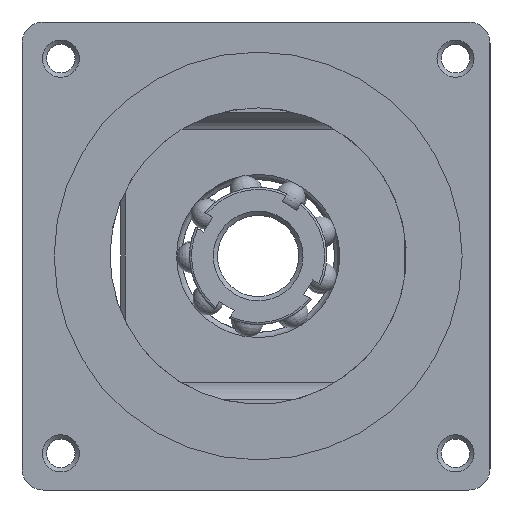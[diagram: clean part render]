
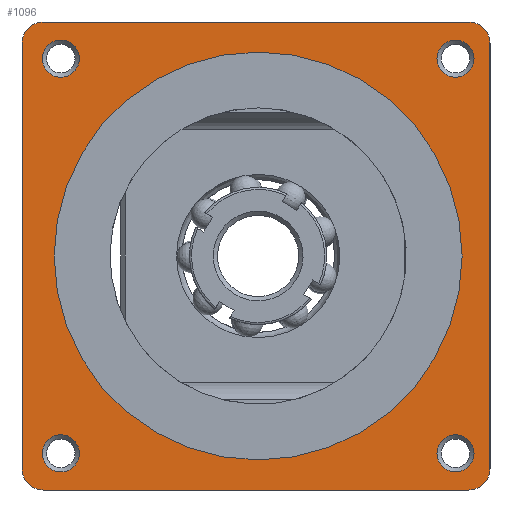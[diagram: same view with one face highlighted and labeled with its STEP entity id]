
A CAD part, left-side view. The second image highlights one B-rep face of the part: STEP entity #1096.
In plain terms, the highlighted planar face has unit normal (-1, 0, 0).
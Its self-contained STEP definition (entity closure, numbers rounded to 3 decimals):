
#1096=ADVANCED_FACE('',(#3850,#3852,#3854,#3856,#3858,#3860),#3862,.T.);
#3850=FACE_BOUND('',#3851,.T.);
#3851=EDGE_LOOP('',(#6065,#6066,#6067,#6068,#6069,#6070,#6071,#6072));
#3852=FACE_BOUND('',#3853,.T.);
#3853=EDGE_LOOP('',(#6073));
#3854=FACE_BOUND('',#3855,.T.);
#3855=EDGE_LOOP('',(#6074));
#3856=FACE_BOUND('',#3857,.T.);
#3857=EDGE_LOOP('',(#6075));
#3858=FACE_BOUND('',#3859,.T.);
#3859=EDGE_LOOP('',(#6076));
#3860=FACE_BOUND('',#3861,.T.);
#3861=EDGE_LOOP('',(#6077));
#3862=PLANE('',#3863);
#3863=AXIS2_PLACEMENT_3D('',#3864,#3865,#3866);
#3864=CARTESIAN_POINT('',(-15.,109.,-54.5));
#3865=DIRECTION('',(-1.,0.,0.));
#3866=DIRECTION('',(0.,-1.,0.));
#6065=ORIENTED_EDGE('',*,*,#7027,.F.);
#6066=ORIENTED_EDGE('',*,*,#7040,.T.);
#6067=ORIENTED_EDGE('',*,*,#7038,.F.);
#6068=ORIENTED_EDGE('',*,*,#7037,.T.);
#6069=ORIENTED_EDGE('',*,*,#7035,.F.);
#6070=ORIENTED_EDGE('',*,*,#7033,.F.);
#6071=ORIENTED_EDGE('',*,*,#7030,.F.);
#6072=ORIENTED_EDGE('',*,*,#7028,.F.);
#6073=ORIENTED_EDGE('',*,*,#7055,.T.);
#6074=ORIENTED_EDGE('',*,*,#7056,.T.);
#6075=ORIENTED_EDGE('',*,*,#7057,.T.);
#6076=ORIENTED_EDGE('',*,*,#7058,.T.);
#6077=ORIENTED_EDGE('',*,*,#7059,.T.);
#7027=EDGE_CURVE('',#7743,#7741,#7745,.F.);
#7028=EDGE_CURVE('',#7741,#7746,#7747,.T.);
#7030=EDGE_CURVE('',#7746,#7749,#7750,.F.);
#7033=EDGE_CURVE('',#7749,#7752,#7754,.T.);
#7035=EDGE_CURVE('',#7752,#7755,#7757,.F.);
#7037=EDGE_CURVE('',#7758,#7755,#7760,.T.);
#7038=EDGE_CURVE('',#7758,#7761,#7762,.F.);
#7040=EDGE_CURVE('',#7743,#7761,#7764,.T.);
#7055=EDGE_CURVE('',#7793,#7793,#7794,.F.);
#7056=EDGE_CURVE('',#7795,#7795,#7796,.F.);
#7057=EDGE_CURVE('',#7797,#7797,#7798,.F.);
#7058=EDGE_CURVE('',#7799,#7799,#7800,.F.);
#7059=EDGE_CURVE('',#7801,#7801,#7802,.F.);
#7741=VERTEX_POINT('',#9188);
#7743=VERTEX_POINT('',#9192);
#7745=CIRCLE('',#9196,5.);
#7746=VERTEX_POINT('',#9200);
#7747=LINE('',#9201,#9202);
#7749=VERTEX_POINT('',#9207);
#7750=CIRCLE('',#9208,5.);
#7752=VERTEX_POINT('',#9215);
#7754=LINE('',#9219,#9220);
#7755=VERTEX_POINT('',#9222);
#7757=CIRCLE('',#9226,5.);
#7758=VERTEX_POINT('',#9230);
#7760=LINE('',#9234,#9235);
#7761=VERTEX_POINT('',#9237);
#7762=CIRCLE('',#9238,5.);
#7764=LINE('',#9245,#9246);
#7793=VERTEX_POINT('',#9318);
#7794=CIRCLE('',#9319,4.323);
#7795=VERTEX_POINT('',#9323);
#7796=CIRCLE('',#9324,4.323);
#7797=VERTEX_POINT('',#9328);
#7798=CIRCLE('',#9329,47.5);
#7799=VERTEX_POINT('',#9333);
#7800=CIRCLE('',#9334,4.323);
#7801=VERTEX_POINT('',#9338);
#7802=CIRCLE('',#9339,4.323);
#9188=CARTESIAN_POINT('',(-15.,109.,-49.5));
#9192=CARTESIAN_POINT('',(-15.,104.,-54.5));
#9196=AXIS2_PLACEMENT_3D('',#9197,#9198,#9199);
#9197=CARTESIAN_POINT('',(-15.,104.,-49.5));
#9198=DIRECTION('',(-1.,0.,0.));
#9199=DIRECTION('',(0.,1.,0.));
#9200=CARTESIAN_POINT('',(-15.,109.,49.5));
#9201=CARTESIAN_POINT('',(-15.,109.,-49.5));
#9202=VECTOR('',#9203,1.);
#9203=DIRECTION('',(0.,0.,1.));
#9207=CARTESIAN_POINT('',(-15.,104.,54.5));
#9208=AXIS2_PLACEMENT_3D('',#9209,#9210,#9211);
#9209=CARTESIAN_POINT('',(-15.,104.,49.5));
#9210=DIRECTION('',(-1.,0.,0.));
#9211=DIRECTION('',(0.,0.,1.));
#9215=CARTESIAN_POINT('',(-15.,5.,54.5));
#9219=CARTESIAN_POINT('',(-15.,104.,54.5));
#9220=VECTOR('',#9221,1.);
#9221=DIRECTION('',(0.,-1.,0.));
#9222=CARTESIAN_POINT('',(-15.,0.,49.5));
#9226=AXIS2_PLACEMENT_3D('',#9227,#9228,#9229);
#9227=CARTESIAN_POINT('',(-15.,5.,49.5));
#9228=DIRECTION('',(-1.,0.,0.));
#9229=DIRECTION('',(0.,-1.,0.));
#9230=CARTESIAN_POINT('',(-15.,0.,-49.5));
#9234=CARTESIAN_POINT('',(-15.,0.,-49.5));
#9235=VECTOR('',#9236,1.);
#9236=DIRECTION('',(0.,0.,1.));
#9237=CARTESIAN_POINT('',(-15.,5.,-54.5));
#9238=AXIS2_PLACEMENT_3D('',#9239,#9240,#9241);
#9239=CARTESIAN_POINT('',(-15.,5.,-49.5));
#9240=DIRECTION('',(-1.,0.,0.));
#9241=DIRECTION('',(0.,0.,-1.));
#9245=CARTESIAN_POINT('',(-15.,104.,-54.5));
#9246=VECTOR('',#9247,1.);
#9247=DIRECTION('',(0.,-1.,0.));
#9318=CARTESIAN_POINT('',(-15.,12.361,-45.962));
#9319=AXIS2_PLACEMENT_3D('',#9320,#9321,#9322);
#9320=CARTESIAN_POINT('',(-15.,8.038,-45.962));
#9321=DIRECTION('',(-1.,0.,0.));
#9322=DIRECTION('',(0.,1.,0.));
#9323=CARTESIAN_POINT('',(-15.,104.285,45.962));
#9324=AXIS2_PLACEMENT_3D('',#9325,#9326,#9327);
#9325=CARTESIAN_POINT('',(-15.,99.962,45.962));
#9326=DIRECTION('',(-1.,0.,0.));
#9327=DIRECTION('',(0.,1.,0.));
#9328=CARTESIAN_POINT('',(-15.,54.,47.5));
#9329=AXIS2_PLACEMENT_3D('',#9330,#9331,#9332);
#9330=CARTESIAN_POINT('',(-15.,54.,0.));
#9331=DIRECTION('',(-1.,0.,0.));
#9332=DIRECTION('',(0.,0.,1.));
#9333=CARTESIAN_POINT('',(-15.,104.285,-45.962));
#9334=AXIS2_PLACEMENT_3D('',#9335,#9336,#9337);
#9335=CARTESIAN_POINT('',(-15.,99.962,-45.962));
#9336=DIRECTION('',(-1.,0.,0.));
#9337=DIRECTION('',(0.,1.,0.));
#9338=CARTESIAN_POINT('',(-15.,12.361,45.962));
#9339=AXIS2_PLACEMENT_3D('',#9340,#9341,#9342);
#9340=CARTESIAN_POINT('',(-15.,8.038,45.962));
#9341=DIRECTION('',(-1.,0.,0.));
#9342=DIRECTION('',(0.,1.,0.));
